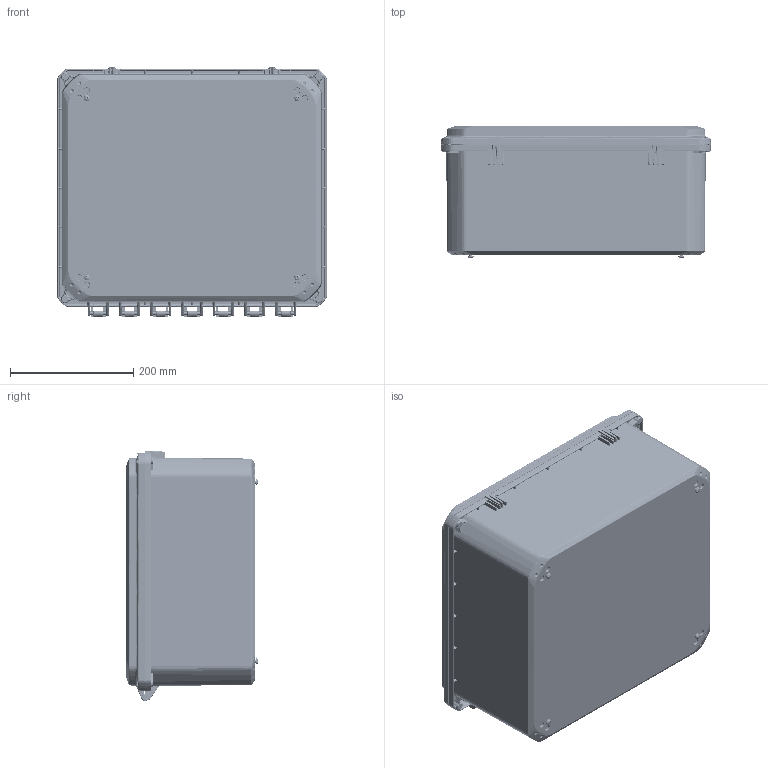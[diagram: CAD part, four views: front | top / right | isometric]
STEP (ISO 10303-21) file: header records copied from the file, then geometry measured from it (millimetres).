
FILE_DESCRIPTION (( 'STEP AP214' ), '1' );
FILE_NAME ('ZH-161407-95.STEP', '2024-06-17T12:06:48', ( '' ), ( '' ), 'SwSTEP 2.0', 'SolidWorks 2024', '' );
FILE_SCHEMA (( 'AUTOMOTIVE_DESIGN' ));
Length unit declared in the file: inch
Products named in the file (10): Z_-16141C_ZH-16141C-02; ZH-1614G; SCREWS-047_default; Z_-16141CG_ZH-16141CG-02; Z_-16147B_ZH-16147B-01; ZH-161407-95; Z_-16147BI_ZH-16147BI-01; INSERTS-4; SCREWS-049_SCREWS-049; LABEL-104
Assembly tree (26 placements, depth 3):
  ZH-161407-95
    Z_-16147BI_ZH-16147BI-01
      Z_-16147B_ZH-16147B-01
      INSERTS-4  x12
      LABEL-104
    Z_-16141CG_ZH-16141CG-02
      Z_-16141C_ZH-16141C-02
      ZH-1614G
    SCREWS-047_default  x4
    SCREWS-049_SCREWS-049  x4
Bounding box: 437.9 x 214.55 x 406.27 mm (x, y, z)
Volume: 3129767.3 mm3; surface area: 1453007.5 mm2
Topology: 24 solids, 24 shells, 7011 faces, 17167 edges, 10210 vertices
Faces by surface type: bspline 1824, cylinder 1779, plane 1578, cone 880, torus 748, sphere 202
Entity records: 287610 total; most frequent: CARTESIAN_POINT 169161, ORIENTED_EDGE 27226, DIRECTION 22214, EDGE_CURVE 13613, AXIS2_PLACEMENT_3D 9140, VERTEX_POINT 7976, EDGE_LOOP 5979, FACE_OUTER_BOUND 5795
